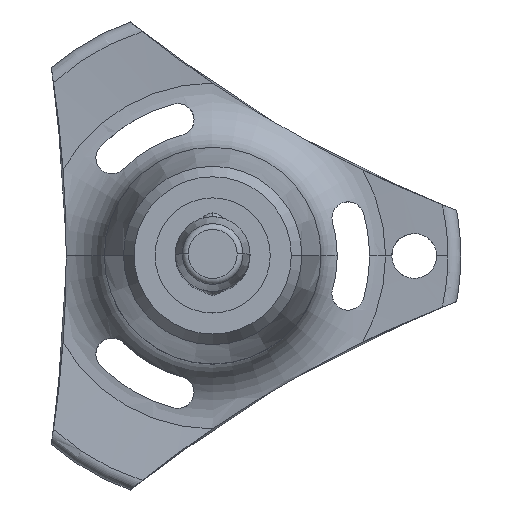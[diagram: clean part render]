
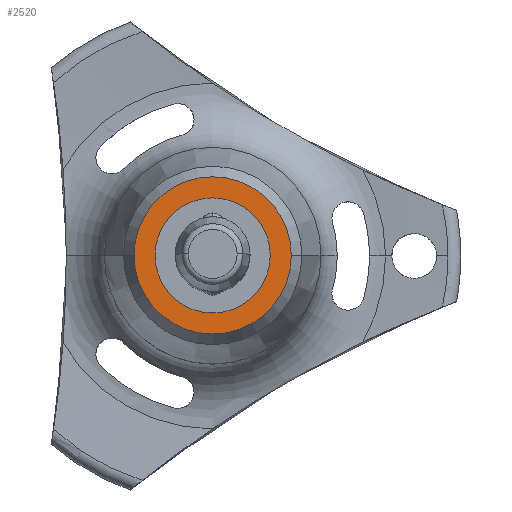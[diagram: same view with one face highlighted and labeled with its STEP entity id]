
A CAD part, top view. The second image highlights one B-rep face of the part: STEP entity #2520.
In plain terms, the highlighted planar face has unit normal (0, 0, 1).
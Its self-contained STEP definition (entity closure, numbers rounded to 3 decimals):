
#2 = EDGE_CURVE ( 'NONE', #1714, #633, #903, .T. ) ;
#25 = DIRECTION ( 'NONE',  ( 0., 0., -1. ) ) ;
#39 = DIRECTION ( 'NONE',  ( -1., 0., 0. ) ) ;
#56 = FACE_OUTER_BOUND ( 'NONE', #1164, .T. ) ;
#75 = DIRECTION ( 'NONE',  ( -1., 0., 0. ) ) ;
#107 = EDGE_CURVE ( 'NONE', #481, #625, #2461, .T. ) ;
#163 = CARTESIAN_POINT ( 'NONE',  ( 5.262, 0., -50.4 ) ) ;
#481 = VERTEX_POINT ( 'NONE', #1680 ) ;
#542 = ORIENTED_EDGE ( 'NONE', *, *, #2041, .T. ) ;
#550 = AXIS2_PLACEMENT_3D ( 'NONE', #898, #25, #75 ) ;
#602 = AXIS2_PLACEMENT_3D ( 'NONE', #878, #1711, #2543 ) ;
#625 = VERTEX_POINT ( 'NONE', #1581 ) ;
#633 = VERTEX_POINT ( 'NONE', #163 ) ;
#651 = CIRCLE ( 'NONE', #1992, 3.852 ) ;
#678 = ORIENTED_EDGE ( 'NONE', *, *, #2, .F. ) ;
#830 = FACE_BOUND ( 'NONE', #2191, .T. ) ;
#878 = CARTESIAN_POINT ( 'NONE',  ( 0., 3.852, -50.4 ) ) ;
#898 = CARTESIAN_POINT ( 'NONE',  ( 0., 0., -50.4 ) ) ;
#903 = CIRCLE ( 'NONE', #2417, 5.262 ) ;
#962 = DIRECTION ( 'NONE',  ( 0., 0., -1. ) ) ;
#996 = EDGE_CURVE ( 'NONE', #633, #1714, #1775, .T. ) ;
#1063 = CARTESIAN_POINT ( 'NONE',  ( 0., 0., -50.4 ) ) ;
#1164 = EDGE_LOOP ( 'NONE', ( #678, #1306 ) ) ;
#1306 = ORIENTED_EDGE ( 'NONE', *, *, #996, .F. ) ;
#1581 = CARTESIAN_POINT ( 'NONE',  ( 3.852, 0., -50.4 ) ) ;
#1597 = AXIS2_PLACEMENT_3D ( 'NONE', #1997, #962, #2381 ) ;
#1654 = DIRECTION ( 'NONE',  ( 0., 0., -1. ) ) ;
#1680 = CARTESIAN_POINT ( 'NONE',  ( -3.852, 0., -50.4 ) ) ;
#1711 = DIRECTION ( 'NONE',  ( 0., 0., 1. ) ) ;
#1714 = VERTEX_POINT ( 'NONE', #2163 ) ;
#1775 = CIRCLE ( 'NONE', #1597, 5.262 ) ;
#1888 = ORIENTED_EDGE ( 'NONE', *, *, #107, .T. ) ;
#1909 = DIRECTION ( 'NONE',  ( -1., 0., 0. ) ) ;
#1919 = PLANE ( 'NONE',  #602 ) ;
#1992 = AXIS2_PLACEMENT_3D ( 'NONE', #2109, #1654, #39 ) ;
#1997 = CARTESIAN_POINT ( 'NONE',  ( 0., 0., -50.4 ) ) ;
#2041 = EDGE_CURVE ( 'NONE', #625, #481, #651, .T. ) ;
#2109 = CARTESIAN_POINT ( 'NONE',  ( 0., 0., -50.4 ) ) ;
#2163 = CARTESIAN_POINT ( 'NONE',  ( -5.262, 0., -50.4 ) ) ;
#2191 = EDGE_LOOP ( 'NONE', ( #1888, #542 ) ) ;
#2381 = DIRECTION ( 'NONE',  ( -1., 0., 0. ) ) ;
#2417 = AXIS2_PLACEMENT_3D ( 'NONE', #1063, #2500, #1909 ) ;
#2461 = CIRCLE ( 'NONE', #550, 3.852 ) ;
#2500 = DIRECTION ( 'NONE',  ( 0., 0., -1. ) ) ;
#2520 = ADVANCED_FACE ( 'NONE', ( #830, #56 ), #1919, .T. ) ;
#2543 = DIRECTION ( 'NONE',  ( 1., 0., 0. ) ) ;
